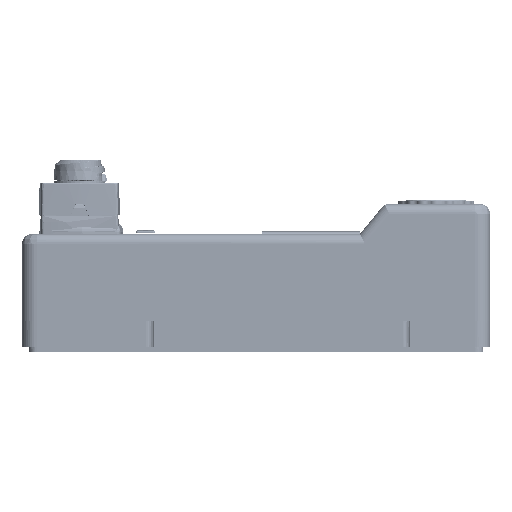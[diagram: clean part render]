
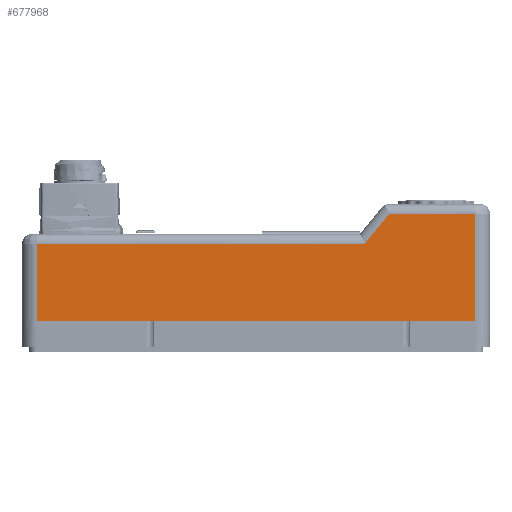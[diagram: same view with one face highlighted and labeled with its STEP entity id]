
A CAD part, front view. The second image highlights one B-rep face of the part: STEP entity #677968.
In plain terms, the highlighted planar face has unit normal (0, -1, 0).
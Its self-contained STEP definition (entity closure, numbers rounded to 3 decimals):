
#2719 = EDGE_LOOP ( 'NONE', ( #212811, #8163, #187947, #359972, #644786, #369345 ) ) ;
#3598 = EDGE_CURVE ( 'NONE', #670411, #35453, #280211, .T. ) ;
#8163 = ORIENTED_EDGE ( 'NONE', *, *, #551996, .T. ) ;
#35453 = VERTEX_POINT ( 'NONE', #40956 ) ;
#40956 = CARTESIAN_POINT ( 'NONE',  ( 370.728, 5., 108.4 ) ) ;
#57831 = AXIS2_PLACEMENT_3D ( 'NONE', #180385, #414930, #591924 ) ;
#72642 = PLANE ( 'NONE',  #57831 ) ;
#102454 = CARTESIAN_POINT ( 'NONE',  ( 13., 5., 78. ) ) ;
#120371 = DIRECTION ( 'NONE',  ( 1., 0., 0. ) ) ;
#160108 = EDGE_CURVE ( 'NONE', #587491, #670411, #460836, .T. ) ;
#180385 = CARTESIAN_POINT ( 'NONE',  ( 13., 5., 78. ) ) ;
#182509 = VECTOR ( 'NONE', #514777, 1000. ) ;
#187947 = ORIENTED_EDGE ( 'NONE', *, *, #441437, .T. ) ;
#212811 = ORIENTED_EDGE ( 'NONE', *, *, #515997, .T. ) ;
#277860 = VECTOR ( 'NONE', #530112, 1000. ) ;
#280211 = LINE ( 'NONE', #637748, #182509 ) ;
#293682 = LINE ( 'NONE', #474250, #517440 ) ;
#299367 = CARTESIAN_POINT ( 'NONE',  ( 345.728, 5., 78. ) ) ;
#316222 = VECTOR ( 'NONE', #449395, 1000. ) ;
#345498 = CARTESIAN_POINT ( 'NONE',  ( 13., 5., 78. ) ) ;
#359694 = LINE ( 'NONE', #482686, #510563 ) ;
#359972 = ORIENTED_EDGE ( 'NONE', *, *, #631255, .T. ) ;
#363512 = DIRECTION ( 'NONE',  ( -0.635, 0., -0.772 ) ) ;
#369345 = ORIENTED_EDGE ( 'NONE', *, *, #3598, .T. ) ;
#378806 = VERTEX_POINT ( 'NONE', #102454 ) ;
#414930 = DIRECTION ( 'NONE',  ( 0., -1., 0. ) ) ;
#417822 = CARTESIAN_POINT ( 'NONE',  ( 458., 5., 108.4 ) ) ;
#441437 = EDGE_CURVE ( 'NONE', #378806, #647984, #449479, .T. ) ;
#449395 = DIRECTION ( 'NONE',  ( 0., 0., 1. ) ) ;
#449479 = LINE ( 'NONE', #345498, #627660 ) ;
#460836 = LINE ( 'NONE', #695285, #316222 ) ;
#474250 = CARTESIAN_POINT ( 'NONE',  ( 13., 5., 0. ) ) ;
#482686 = CARTESIAN_POINT ( 'NONE',  ( 370.728, 5., 108.4 ) ) ;
#510563 = VECTOR ( 'NONE', #363512, 1000. ) ;
#514777 = DIRECTION ( 'NONE',  ( -1., 0., 0. ) ) ;
#515997 = EDGE_CURVE ( 'NONE', #35453, #652084, #359694, .T. ) ;
#517440 = VECTOR ( 'NONE', #120371, 1000. ) ;
#526330 = LINE ( 'NONE', #299367, #277860 ) ;
#530112 = DIRECTION ( 'NONE',  ( -1., 0., 0. ) ) ;
#551996 = EDGE_CURVE ( 'NONE', #652084, #378806, #526330, .T. ) ;
#587491 = VERTEX_POINT ( 'NONE', #629935 ) ;
#588153 = FACE_OUTER_BOUND ( 'NONE', #2719, .T. ) ;
#591924 = DIRECTION ( 'NONE',  ( 0., 0., -1. ) ) ;
#626435 = DIRECTION ( 'NONE',  ( 0., 0., -1. ) ) ;
#627660 = VECTOR ( 'NONE', #626435, 1000. ) ;
#629935 = CARTESIAN_POINT ( 'NONE',  ( 458., 5., 0. ) ) ;
#631255 = EDGE_CURVE ( 'NONE', #647984, #587491, #293682, .T. ) ;
#637748 = CARTESIAN_POINT ( 'NONE',  ( 13., 5., 108.4 ) ) ;
#644527 = CARTESIAN_POINT ( 'NONE',  ( 13., 5., 0. ) ) ;
#644786 = ORIENTED_EDGE ( 'NONE', *, *, #160108, .T. ) ;
#647984 = VERTEX_POINT ( 'NONE', #644527 ) ;
#652084 = VERTEX_POINT ( 'NONE', #716275 ) ;
#670411 = VERTEX_POINT ( 'NONE', #417822 ) ;
#677968 = ADVANCED_FACE ( 'NONE', ( #588153 ), #72642, .T. ) ;
#695285 = CARTESIAN_POINT ( 'NONE',  ( 458., 5., 78. ) ) ;
#716275 = CARTESIAN_POINT ( 'NONE',  ( 345.728, 5., 78. ) ) ;
